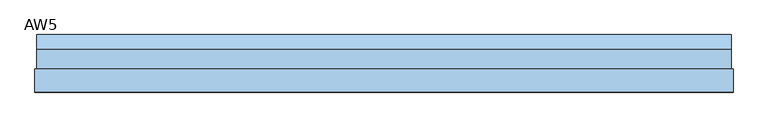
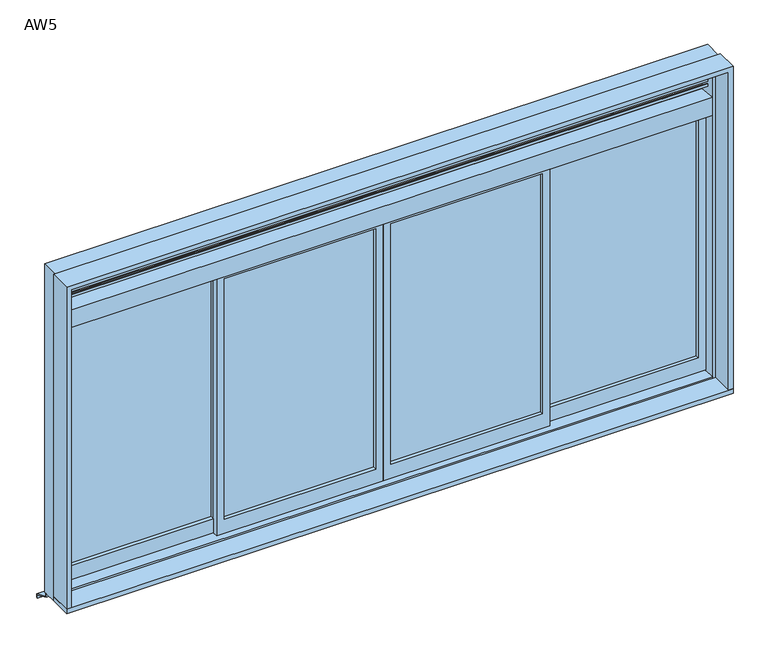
"""IFC4 building model written with IfcOpenShell, lengths in millimetres: window geometry, 営_連段窓_引違い/ガラリ : AW5."""

from ifc_helpers import new_model, si_unit, frame, origin, place, context, project, spatial, polyline, outline, extrude, source, transform, mapped, element, save


def aw5_d07c3508(model_context):
    return source(origin(), model_context, "Body", "SweptSolid", [
        extrude(outline(polyline([(20.0, 2823.2493654), (20.0, 2805.0), (15.0, 2805.0), (15.0, 2820.0), (-30.0, 2840.0), (-30.0, 2855.0), (-25.0, 2855.0), (-25.0, 2843.2493654), (20.0, 2823.2493654)])), frame((-1750.0, 0.0, 0.0), z_axis=(1.0, 0.0, 0.0), x_axis=(0.0, 1.0, 0.0)), (0.0, 0.0, 1.0), 3500.0),
        extrude(outline(polyline([(20.0, 2793.2493654), (20.0, 2775.0), (15.0, 2775.0), (15.0, 2790.0), (-30.0, 2810.0), (-30.0, 2825.0), (-25.0, 2825.0), (-25.0, 2813.2493654), (20.0, 2793.2493654)])), frame((-1750.0, 0.0, 0.0), z_axis=(1.0, 0.0, 0.0), x_axis=(0.0, 1.0, 0.0)), (0.0, 0.0, 1.0), 3500.0),
        extrude(outline(polyline([(20.0, 2763.2493654), (20.0, 2745.0), (15.0, 2745.0), (15.0, 2760.0), (-30.0, 2780.0), (-30.0, 2795.0), (-25.0, 2795.0), (-25.0, 2783.2493654), (20.0, 2763.2493654)])), frame((-1750.0, 0.0, 0.0), z_axis=(1.0, 0.0, 0.0), x_axis=(0.0, 1.0, 0.0)), (0.0, 0.0, 1.0), 3500.0),
        extrude(outline(polyline([(20.0, 2733.2493654), (20.0, 2715.0), (15.0, 2715.0), (15.0, 2730.0), (-30.0, 2750.0), (-30.0, 2765.0), (-25.0, 2765.0), (-25.0, 2753.2493654), (20.0, 2733.2493654)])), frame((-1750.0, 0.0, 0.0), z_axis=(1.0, 0.0, 0.0), x_axis=(0.0, 1.0, 0.0)), (0.0, 0.0, 1.0), 3500.0),
        extrude(outline(polyline([(20.0, 2853.2493654), (20.0, 2835.0), (15.0, 2835.0), (15.0, 2850.0), (-30.0, 2870.0), (-30.0, 2885.0), (-25.0, 2885.0), (-25.0, 2873.2493654), (20.0, 2853.2493654)])), frame((-1750.0, 0.0, 0.0), z_axis=(1.0, 0.0, 0.0), x_axis=(0.0, 1.0, 0.0)), (0.0, 0.0, 1.0), 3500.0),
        extrude(outline(polyline([(20.0, 2703.2493654), (20.0, 2685.0), (15.0, 2685.0), (15.0, 2700.0), (-30.0, 2720.0), (-30.0, 2735.0), (-25.0, 2735.0), (-25.0, 2723.2493654), (20.0, 2703.2493654)])), frame((-1750.0, 0.0, 0.0), z_axis=(1.0, 0.0, 0.0), x_axis=(0.0, 1.0, 0.0)), (0.0, 0.0, 1.0), 3500.0),
        extrude(outline(polyline([(1710.0, 10.0), (895.0, 10.0), (895.0, 15.0), (1710.0, 15.0), (1710.0, 10.0)])), frame((0.0, 0.0, 1180.0), z_axis=(0.0, 0.0, 1.0), x_axis=(1.0, 0.0, 0.0)), (0.0, 0.0, 1.0), 1365.0),
        extrude(outline(polyline([(1100.0, 1750.0), (2585.0, 1750.0), (2585.0, 855.0), (1100.0, 855.0), (1100.0, 1750.0)]), holes=[polyline([(1180.0, 1710.0), (1180.0, 895.0), (2545.0, 895.0), (2545.0, 1710.0), (1180.0, 1710.0)])]), frame((0.0, -10.0, 0.0), z_axis=(0.0, 1.0, 0.0), x_axis=(0.0, 0.0, 1.0)), (0.0, 0.0, 1.0), 30.0),
        extrude(outline(polyline([(855.0, -20.0), (40.0, -20.0), (40.0, -15.0), (855.0, -15.0), (855.0, -20.0)])), frame((0.0, 0.0, 1180.0), z_axis=(0.0, 0.0, 1.0), x_axis=(1.0, 0.0, 0.0)), (0.0, 0.0, 1.0), 1365.0),
        extrude(outline(polyline([(1100.0, 895.0), (2585.0, 895.0), (2585.0, 0.0), (1100.0, 0.0), (1100.0, 895.0)]), holes=[polyline([(1180.0, 855.0), (1180.0, 40.0), (2545.0, 40.0), (2545.0, 855.0), (1180.0, 855.0)])]), frame((0.0, -40.0, 0.0), z_axis=(0.0, 1.0, 0.0), x_axis=(0.0, 0.0, 1.0)), (0.0, 0.0, 1.0), 30.0),
        extrude(outline(polyline([(-40.0, -20.0), (-855.0, -20.0), (-855.0, -15.0), (-40.0, -15.0), (-40.0, -20.0)])), frame((0.0, 0.0, 1180.0), z_axis=(0.0, 0.0, 1.0), x_axis=(1.0, 0.0, 0.0)), (0.0, 0.0, 1.0), 1365.0),
        extrude(outline(polyline([(-895.0, 10.0), (-1710.0, 10.0), (-1710.0, 15.0), (-895.0, 15.0), (-895.0, 10.0)])), frame((0.0, 0.0, 1180.0), z_axis=(0.0, 0.0, 1.0), x_axis=(1.0, 0.0, 0.0)), (0.0, 0.0, 1.0), 1365.0),
        extrude(outline(polyline([(1100.0, 0.0), (2585.0, 0.0), (2585.0, -895.0), (1100.0, -895.0), (1100.0, 0.0)]), holes=[polyline([(1180.0, -40.0), (1180.0, -855.0), (2545.0, -855.0), (2545.0, -40.0), (1180.0, -40.0)])]), frame((0.0, -40.0, 0.0), z_axis=(0.0, 1.0, 0.0), x_axis=(0.0, 0.0, 1.0)), (0.0, 0.0, 1.0), 30.0),
        extrude(outline(polyline([(1100.0, -855.0), (2585.0, -855.0), (2585.0, -1750.0), (1100.0, -1750.0), (1100.0, -855.0)]), holes=[polyline([(1180.0, -895.0), (1180.0, -1710.0), (2545.0, -1710.0), (2545.0, -895.0), (1180.0, -895.0)])]), frame((0.0, -10.0, 0.0), z_axis=(0.0, 1.0, 0.0), x_axis=(0.0, 0.0, 1.0)), (0.0, 0.0, 1.0), 30.0),
        extrude(outline(polyline([(1790.0, -195.0), (-1790.0, -195.0), (-1790.0, -75.0), (1790.0, -75.0), (1790.0, -195.0)])), frame((0.0, 0.0, 1065.0), z_axis=(0.0, 0.0, 1.0), x_axis=(1.0, 0.0, 0.0)), (0.0, 0.0, 1.0), 25.0),
        extrude(outline(polyline([(15.0, 1035.0), (100.0, 995.0), (100.0, 975.0), (95.0014518, 975.0), (95.0014518, 991.8262891), (10.0, 1031.8269723), (10.0, 1050.0), (15.0, 1050.0), (15.0, 1035.0)])), frame((-1780.0, 0.0, 0.0), z_axis=(1.0, 0.0, 0.0), x_axis=(0.0, 1.0, 0.0)), (0.0, 0.0, 1.0), 3560.0),
        extrude(outline(polyline([(1065.0, -1790.0), (1065.0, -1765.0), (2895.0, -1765.0), (2895.0, 1765.0), (1065.0, 1765.0), (1065.0, 1790.0), (2920.0, 1790.0), (2920.0, -1790.0), (1065.0, -1790.0)])), frame((0.0, -195.0, 0.0), z_axis=(0.0, 1.0, 0.0), x_axis=(0.0, 0.0, 1.0)), (0.0, 0.0, 1.0), 120.0),
        extrude(outline(polyline([(1050.0, -1780.0), (1050.0, -1750.0), (2885.0, -1750.0), (2885.0, 1750.0), (1050.0, 1750.0), (1050.0, 1780.0), (2915.0, 1780.0), (2915.0, -1780.0), (1050.0, -1780.0)])), frame((0.0, -75.0, 0.0), z_axis=(0.0, 1.0, 0.0), x_axis=(0.0, 0.0, 1.0)), (0.0, 0.0, 1.0), 100.0),
        extrude(outline(polyline([(-75.0, 1050.0), (-75.0, 1100.0), (25.0, 1090.6666667), (25.0, 1050.0), (-75.0, 1050.0)])), frame((-1750.0, 0.0, 0.0), z_axis=(1.0, 0.0, 0.0), x_axis=(0.0, 1.0, 0.0)), (0.0, 0.0, 1.0), 3500.0),
        extrude(outline(polyline([(25.0, 2585.0), (-75.0, 2585.0), (-75.0, 2685.0), (25.0, 2675.0), (25.0, 2585.0)])), frame((-1750.0, 0.0, 0.0), z_axis=(1.0, 0.0, 0.0), x_axis=(0.0, 1.0, 0.0)), (0.0, 0.0, 1.0), 3500.0),
    ])


if __name__ == "__main__":
    model = new_model("IFC4")
    model_context = context("Model", 3, world=origin())
    ifc_project = project(units=[si_unit("LENGTHUNIT", "METRE", prefix="MILLI")], contexts=[model_context])
    site = spatial("IfcSite", under=ifc_project)
    building = spatial("IfcBuilding", under=site)
    placement = place(None, origin())
    aw5_shape = aw5_d07c3508(model_context)
    element("IfcWindow", 1, ObjectType="営_連段窓_引違い/ガラリ : AW5", at=placement, inside=building, context=model_context, shape_type="MappedRepresentation", body=[
        mapped(aw5_shape, transform((0.0, 0.0, 0.0), x_axis=(1.0, 0.0, 0.0), y_axis=(0.0, 1.0, 0.0), z_axis=(0.0, 0.0, 1.0))),
    ])
    save(model, "model.ifc")
